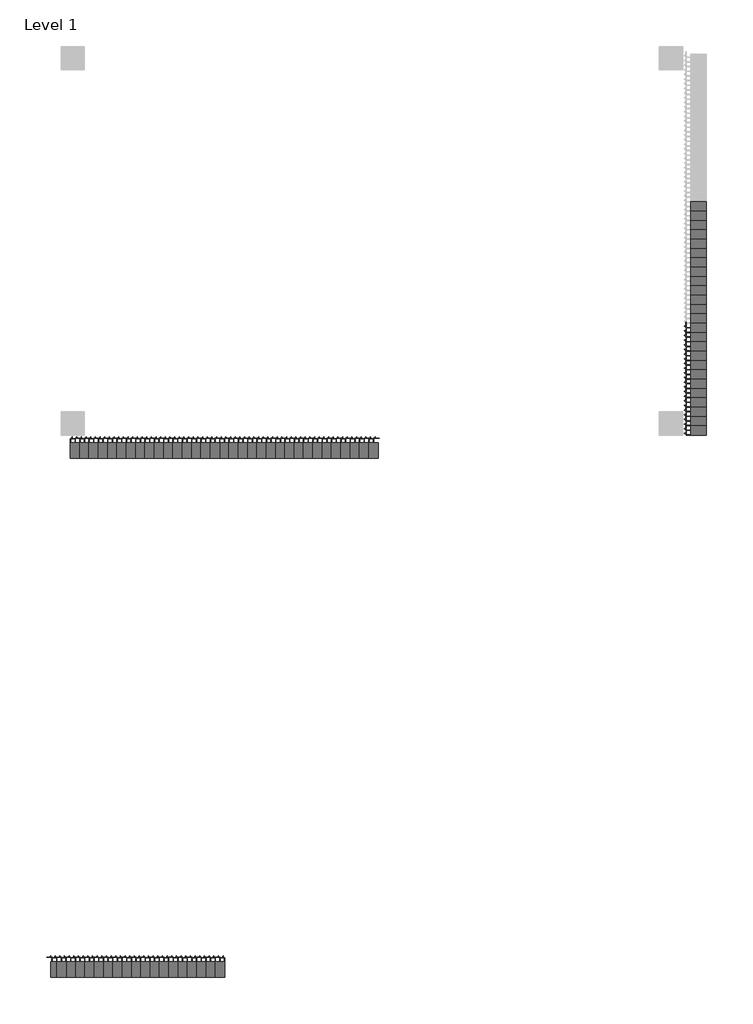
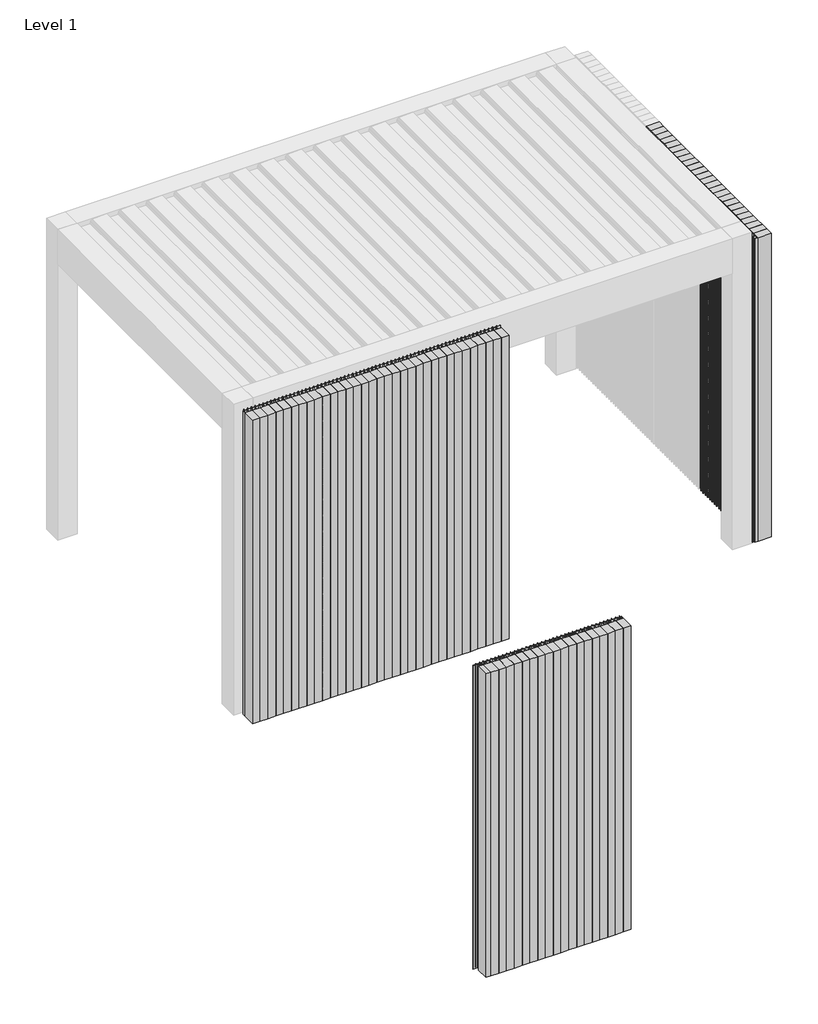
# One storey, part 1 of 80: 77 plates, 64 members.
"""IFC4 building model written with IfcOpenShell, lengths in millimetres."""

from ifc_helpers import new_model, si_unit, origin, place, context, project, spatial, transform, mapped, element, save
from components import rectangular_mullion_776733ef, rectangular_mullion_087e8397, rectangular_mullion_6a9919f5, empty_system_panel_empty_5508d8ad, empty_system_panel_empty_aff67664, empty_system_panel_empty_a3f81492, empty_system_panel_empty_c465eea2

model = new_model("IFC4")

# Units and contexts
model_context = context("Model", 3, world=origin())
ifc_project = project(units=[si_unit("LENGTHUNIT", "METRE", prefix="MILLI")], contexts=[model_context])

# Site, building, storey
site = spatial("IfcSite", under=ifc_project)
building = spatial("IfcBuilding", under=site)
storey = spatial("IfcBuildingStorey", under=building, Name="Level 1", Elevation=0.0)

# Members
placement = place(None, origin())
rectangular_mullion_shape = rectangular_mullion_776733ef(model_context)
element("IfcMember", 1, ObjectType="Rectangular Mullion : Renson_Linarte_LA-E25-01 Zone B", at=placement, inside=storey, context=model_context, shape_type="MappedRepresentation", body=[
    mapped(rectangular_mullion_shape, transform((384955.5749429, -18477.8406315, 0.0), x_axis=(1.0, 0.0, 0.0), y_axis=(0.0, -1.0, 0.0), z_axis=(0.0, 0.0, -1.0))),
])
element("IfcMember", 2, ObjectType="Rectangular Mullion : Renson_Linarte_LA-E25-01 Zone B", at=placement, inside=storey, context=model_context, shape_type="MappedRepresentation", body=[
    mapped(rectangular_mullion_shape, transform((384895.5749429, -18477.8406315, 0.0), x_axis=(1.0, 0.0, 0.0), y_axis=(0.0, -1.0, 0.0), z_axis=(0.0, 0.0, -1.0))),
])
element("IfcMember", 3, ObjectType="Rectangular Mullion : Renson_Linarte_LA-E25-01 Zone B", at=placement, inside=storey, context=model_context, shape_type="MappedRepresentation", body=[
    mapped(rectangular_mullion_shape, transform((384835.5749429, -18477.8406315, 0.0), x_axis=(1.0, 0.0, 0.0), y_axis=(0.0, -1.0, 0.0), z_axis=(0.0, 0.0, -1.0))),
])
element("IfcMember", 4, ObjectType="Rectangular Mullion : Renson_Linarte_LA-E25-01 Zone B", at=placement, inside=storey, context=model_context, shape_type="MappedRepresentation", body=[
    mapped(rectangular_mullion_shape, transform((384775.5749429, -18477.8406315, 0.0), x_axis=(1.0, 0.0, 0.0), y_axis=(0.0, -1.0, 0.0), z_axis=(0.0, 0.0, -1.0))),
])
element("IfcMember", 5, ObjectType="Rectangular Mullion : Renson_Linarte_LA-E25-01 Zone B", at=placement, inside=storey, context=model_context, shape_type="MappedRepresentation", body=[
    mapped(rectangular_mullion_shape, transform((384715.5749429, -18477.8406315, 0.0), x_axis=(1.0, 0.0, 0.0), y_axis=(0.0, -1.0, 0.0), z_axis=(0.0, 0.0, -1.0))),
])
element("IfcMember", 6, ObjectType="Rectangular Mullion : Renson_Linarte_LA-E25-01 Zone B", at=placement, inside=storey, context=model_context, shape_type="MappedRepresentation", body=[
    mapped(rectangular_mullion_shape, transform((384655.5749429, -18477.8406315, 0.0), x_axis=(1.0, 0.0, 0.0), y_axis=(0.0, -1.0, 0.0), z_axis=(0.0, 0.0, -1.0))),
])
element("IfcMember", 7, ObjectType="Rectangular Mullion : Renson_Linarte_LA-E25-01 Zone B", at=placement, inside=storey, context=model_context, shape_type="MappedRepresentation", body=[
    mapped(rectangular_mullion_shape, transform((384595.5749429, -18477.8406315, 0.0), x_axis=(1.0, 0.0, 0.0), y_axis=(0.0, -1.0, 0.0), z_axis=(0.0, 0.0, -1.0))),
])
element("IfcMember", 8, ObjectType="Rectangular Mullion : Renson_Linarte_LA-E25-01 Zone B", at=placement, inside=storey, context=model_context, shape_type="MappedRepresentation", body=[
    mapped(rectangular_mullion_shape, transform((384535.5749429, -18477.8406315, 0.0), x_axis=(1.0, 0.0, 0.0), y_axis=(0.0, -1.0, 0.0), z_axis=(0.0, 0.0, -1.0))),
])
element("IfcMember", 9, ObjectType="Rectangular Mullion : Renson_Linarte_LA-E25-01 Zone B", at=placement, inside=storey, context=model_context, shape_type="MappedRepresentation", body=[
    mapped(rectangular_mullion_shape, transform((384475.5749429, -18477.8406315, 0.0), x_axis=(1.0, 0.0, 0.0), y_axis=(0.0, -1.0, 0.0), z_axis=(0.0, 0.0, -1.0))),
])
element("IfcMember", 10, ObjectType="Rectangular Mullion : Renson_Linarte_LA-E25-01 Zone B", at=placement, inside=storey, context=model_context, shape_type="MappedRepresentation", body=[
    mapped(rectangular_mullion_shape, transform((384415.5749429, -18477.8406315, 0.0), x_axis=(1.0, 0.0, 0.0), y_axis=(0.0, -1.0, 0.0), z_axis=(0.0, 0.0, -1.0))),
])
element("IfcMember", 11, ObjectType="Rectangular Mullion : Renson_Linarte_LA-E25-01 Zone B", at=placement, inside=storey, context=model_context, shape_type="MappedRepresentation", body=[
    mapped(rectangular_mullion_shape, transform((384355.5749429, -18477.8406315, 0.0), x_axis=(1.0, 0.0, 0.0), y_axis=(0.0, -1.0, 0.0), z_axis=(0.0, 0.0, -1.0))),
])
element("IfcMember", 12, ObjectType="Rectangular Mullion : Renson_Linarte_LA-E25-01 Zone B", at=placement, inside=storey, context=model_context, shape_type="MappedRepresentation", body=[
    mapped(rectangular_mullion_shape, transform((384295.5749429, -18477.8406315, 0.0), x_axis=(1.0, 0.0, 0.0), y_axis=(0.0, -1.0, 0.0), z_axis=(0.0, 0.0, -1.0))),
])
element("IfcMember", 13, ObjectType="Rectangular Mullion : Renson_Linarte_LA-E25-01 Zone B", at=placement, inside=storey, context=model_context, shape_type="MappedRepresentation", body=[
    mapped(rectangular_mullion_shape, transform((384235.5749429, -18477.8406315, 0.0), x_axis=(1.0, 0.0, 0.0), y_axis=(0.0, -1.0, 0.0), z_axis=(0.0, 0.0, -1.0))),
])
element("IfcMember", 14, ObjectType="Rectangular Mullion : Renson_Linarte_LA-E25-01 Zone B", at=placement, inside=storey, context=model_context, shape_type="MappedRepresentation", body=[
    mapped(rectangular_mullion_shape, transform((384175.5749429, -18477.8406315, 0.0), x_axis=(1.0, 0.0, 0.0), y_axis=(0.0, -1.0, 0.0), z_axis=(0.0, 0.0, -1.0))),
])
element("IfcMember", 15, ObjectType="Rectangular Mullion : Renson_Linarte_LA-E25-01 Zone B", at=placement, inside=storey, context=model_context, shape_type="MappedRepresentation", body=[
    mapped(rectangular_mullion_shape, transform((384115.5749429, -18477.8406315, 0.0), x_axis=(1.0, 0.0, 0.0), y_axis=(0.0, -1.0, 0.0), z_axis=(0.0, 0.0, -1.0))),
])
element("IfcMember", 16, ObjectType="Rectangular Mullion : Renson_Linarte_LA-E25-01 Zone B", at=placement, inside=storey, context=model_context, shape_type="MappedRepresentation", body=[
    mapped(rectangular_mullion_shape, transform((384055.5749429, -18477.8406315, 0.0), x_axis=(1.0, 0.0, 0.0), y_axis=(0.0, -1.0, 0.0), z_axis=(0.0, 0.0, -1.0))),
])
element("IfcMember", 17, ObjectType="Rectangular Mullion : Renson_Linarte_LA-E25-01 Zone B", at=placement, inside=storey, context=model_context, shape_type="MappedRepresentation", body=[
    mapped(rectangular_mullion_shape, transform((383995.5749429, -18477.8406315, 0.0), x_axis=(1.0, 0.0, 0.0), y_axis=(0.0, -1.0, 0.0), z_axis=(0.0, 0.0, -1.0))),
])
element("IfcMember", 18, ObjectType="Rectangular Mullion : Renson_Linarte_LA-E25-01 Zone B", at=placement, inside=storey, context=model_context, shape_type="MappedRepresentation", body=[
    mapped(rectangular_mullion_shape, transform((383935.5749429, -18477.8406315, 0.0), x_axis=(1.0, 0.0, 0.0), y_axis=(0.0, -1.0, 0.0), z_axis=(0.0, 0.0, -1.0))),
])
element("IfcMember", 19, ObjectType="Rectangular Mullion : Renson_Linarte_LA-E25-01 Zone B", at=placement, inside=storey, context=model_context, shape_type="MappedRepresentation", body=[
    mapped(rectangular_mullion_shape, transform((383875.5749429, -18477.8406315, 0.0), x_axis=(1.0, 0.0, 0.0), y_axis=(0.0, -1.0, 0.0), z_axis=(0.0, 0.0, -1.0))),
])
element("IfcMember", 20, ObjectType="Rectangular Mullion : Renson_Linarte_LA-E25-01 Zone B", at=placement, inside=storey, context=model_context, shape_type="MappedRepresentation", body=[
    mapped(rectangular_mullion_shape, transform((383815.5749429, -18477.8406315, 0.0), x_axis=(1.0, 0.0, 0.0), y_axis=(0.0, -1.0, 0.0), z_axis=(0.0, 0.0, -1.0))),
])
element("IfcMember", 21, ObjectType="Rectangular Mullion : Renson_Linarte_LA-E25-01 Zone B", at=placement, inside=storey, context=model_context, shape_type="MappedRepresentation", body=[
    mapped(rectangular_mullion_shape, transform((383755.5749429, -18477.8406315, 0.0), x_axis=(1.0, 0.0, 0.0), y_axis=(0.0, -1.0, 0.0), z_axis=(0.0, 0.0, -1.0))),
])
element("IfcMember", 22, ObjectType="Rectangular Mullion : Renson_Linarte_LA-E25-01 Zone B", at=placement, inside=storey, context=model_context, shape_type="MappedRepresentation", body=[
    mapped(rectangular_mullion_shape, transform((383695.5749429, -18477.8406315, 0.0), x_axis=(1.0, 0.0, 0.0), y_axis=(0.0, -1.0, 0.0), z_axis=(0.0, 0.0, -1.0))),
])
element("IfcMember", 23, ObjectType="Rectangular Mullion : Renson_Linarte_LA-E25-01 Zone B", at=placement, inside=storey, context=model_context, shape_type="MappedRepresentation", body=[
    mapped(rectangular_mullion_shape, transform((383635.5749429, -18477.8406315, 0.0), x_axis=(1.0, 0.0, 0.0), y_axis=(0.0, -1.0, 0.0), z_axis=(0.0, 0.0, -1.0))),
])
element("IfcMember", 24, ObjectType="Rectangular Mullion : Renson_Linarte_LA-E25-01 Zone B", at=placement, inside=storey, context=model_context, shape_type="MappedRepresentation", body=[
    mapped(rectangular_mullion_shape, transform((383575.5749429, -18477.8406315, 0.0), x_axis=(1.0, 0.0, 0.0), y_axis=(0.0, -1.0, 0.0), z_axis=(0.0, 0.0, -1.0))),
])
element("IfcMember", 25, ObjectType="Rectangular Mullion : Renson_Linarte_LA-E25-01 Zone B", at=placement, inside=storey, context=model_context, shape_type="MappedRepresentation", body=[
    mapped(rectangular_mullion_shape, transform((383515.5749429, -18477.8406315, 0.0), x_axis=(1.0, 0.0, 0.0), y_axis=(0.0, -1.0, 0.0), z_axis=(0.0, 0.0, -1.0))),
])
element("IfcMember", 26, ObjectType="Rectangular Mullion : Renson_Linarte_LA-E25-01 Zone B", at=placement, inside=storey, context=model_context, shape_type="MappedRepresentation", body=[
    mapped(rectangular_mullion_shape, transform((383455.5749429, -18477.8406315, 0.0), x_axis=(1.0, 0.0, 0.0), y_axis=(0.0, -1.0, 0.0), z_axis=(0.0, 0.0, -1.0))),
])
element("IfcMember", 27, ObjectType="Rectangular Mullion : Renson_Linarte_LA-E25-01 Zone B", at=placement, inside=storey, context=model_context, shape_type="MappedRepresentation", body=[
    mapped(rectangular_mullion_shape, transform((383395.5749429, -18477.8406315, 0.0), x_axis=(1.0, 0.0, 0.0), y_axis=(0.0, -1.0, 0.0), z_axis=(0.0, 0.0, -1.0))),
])
element("IfcMember", 28, ObjectType="Rectangular Mullion : Renson_Linarte_LA-E25-01 Zone B", at=placement, inside=storey, context=model_context, shape_type="MappedRepresentation", body=[
    mapped(rectangular_mullion_shape, transform((383335.5749429, -18477.8406315, 0.0), x_axis=(1.0, 0.0, 0.0), y_axis=(0.0, -1.0, 0.0), z_axis=(0.0, 0.0, -1.0))),
])
element("IfcMember", 29, ObjectType="Rectangular Mullion : Renson_Linarte_LA-E25-01 Zone B", at=placement, inside=storey, context=model_context, shape_type="MappedRepresentation", body=[
    mapped(rectangular_mullion_shape, transform((383275.5749429, -18477.8406315, 0.0), x_axis=(1.0, 0.0, 0.0), y_axis=(0.0, -1.0, 0.0), z_axis=(0.0, 0.0, -1.0))),
])
element("IfcMember", 30, ObjectType="Rectangular Mullion : Renson_Linarte_LA-E25-01 Zone B", at=placement, inside=storey, context=model_context, shape_type="MappedRepresentation", body=[
    mapped(rectangular_mullion_shape, transform((383215.5749429, -18477.8406315, 0.0), x_axis=(1.0, 0.0, 0.0), y_axis=(0.0, -1.0, 0.0), z_axis=(0.0, 0.0, -1.0))),
])
element("IfcMember", 31, ObjectType="Rectangular Mullion : Renson_Linarte_LA-E25-01 Zone B", at=placement, inside=storey, context=model_context, shape_type="MappedRepresentation", body=[
    mapped(rectangular_mullion_shape, transform((383155.5749429, -18477.8406315, 0.0), x_axis=(1.0, 0.0, 0.0), y_axis=(0.0, -1.0, 0.0), z_axis=(0.0, 0.0, -1.0))),
])
element("IfcMember", 32, ObjectType="Rectangular Mullion : Renson_Linarte_LA-E25-01 Zone B", at=placement, inside=storey, context=model_context, shape_type="MappedRepresentation", body=[
    mapped(rectangular_mullion_shape, transform((383095.5749429, -18477.8406315, 0.0), x_axis=(1.0, 0.0, 0.0), y_axis=(0.0, -1.0, 0.0), z_axis=(0.0, 0.0, -1.0))),
])
element("IfcMember", 33, ObjectType="Rectangular Mullion : Renson_Linarte_LA-E25-01 Zone B", at=placement, inside=storey, context=model_context, shape_type="MappedRepresentation", body=[
    mapped(rectangular_mullion_shape, transform((386975.5749426, -18357.8406312, 0.0), x_axis=(0.0, 1.0, 0.0), y_axis=(1.0, 0.0, 0.0), z_axis=(0.0, 0.0, -1.0))),
])
element("IfcMember", 34, ObjectType="Rectangular Mullion : Renson_Linarte_LA-E25-01 Zone B", at=placement, inside=storey, context=model_context, shape_type="MappedRepresentation", body=[
    mapped(rectangular_mullion_shape, transform((386975.5749426, -18297.8406312, 0.0), x_axis=(0.0, 1.0, 0.0), y_axis=(1.0, 0.0, 0.0), z_axis=(0.0, 0.0, -1.0))),
])
element("IfcMember", 35, ObjectType="Rectangular Mullion : Renson_Linarte_LA-E25-01 Zone B", at=placement, inside=storey, context=model_context, shape_type="MappedRepresentation", body=[
    mapped(rectangular_mullion_shape, transform((386975.5749426, -18237.8406312, 0.0), x_axis=(0.0, 1.0, 0.0), y_axis=(1.0, 0.0, 0.0), z_axis=(0.0, 0.0, -1.0))),
])
element("IfcMember", 36, ObjectType="Rectangular Mullion : Renson_Linarte_LA-E25-01 Zone B", at=placement, inside=storey, context=model_context, shape_type="MappedRepresentation", body=[
    mapped(rectangular_mullion_shape, transform((386975.5749426, -18177.8406312, 0.0), x_axis=(0.0, 1.0, 0.0), y_axis=(1.0, 0.0, 0.0), z_axis=(0.0, 0.0, -1.0))),
])
element("IfcMember", 37, ObjectType="Rectangular Mullion : Renson_Linarte_LA-E25-01 Zone B", at=placement, inside=storey, context=model_context, shape_type="MappedRepresentation", body=[
    mapped(rectangular_mullion_shape, transform((386975.5749426, -18117.8406312, 0.0), x_axis=(0.0, 1.0, 0.0), y_axis=(1.0, 0.0, 0.0), z_axis=(0.0, 0.0, -1.0))),
])
element("IfcMember", 38, ObjectType="Rectangular Mullion : Renson_Linarte_LA-E25-01 Zone B", at=placement, inside=storey, context=model_context, shape_type="MappedRepresentation", body=[
    mapped(rectangular_mullion_shape, transform((386975.5749426, -18057.8406312, 0.0), x_axis=(0.0, 1.0, 0.0), y_axis=(1.0, 0.0, 0.0), z_axis=(0.0, 0.0, -1.0))),
])
element("IfcMember", 39, ObjectType="Rectangular Mullion : Renson_Linarte_LA-E25-01 Zone B", at=placement, inside=storey, context=model_context, shape_type="MappedRepresentation", body=[
    mapped(rectangular_mullion_shape, transform((386975.5749426, -17997.8406312, 0.0), x_axis=(0.0, 1.0, 0.0), y_axis=(1.0, 0.0, 0.0), z_axis=(0.0, 0.0, -1.0))),
])
element("IfcMember", 40, ObjectType="Rectangular Mullion : Renson_Linarte_LA-E25-01 Zone B", at=placement, inside=storey, context=model_context, shape_type="MappedRepresentation", body=[
    mapped(rectangular_mullion_shape, transform((386975.5749426, -17937.8406312, 0.0), x_axis=(0.0, 1.0, 0.0), y_axis=(1.0, 0.0, 0.0), z_axis=(0.0, 0.0, -1.0))),
])
element("IfcMember", 41, ObjectType="Rectangular Mullion : Renson_Linarte_LA-E25-01 Zone B", at=placement, inside=storey, context=model_context, shape_type="MappedRepresentation", body=[
    mapped(rectangular_mullion_shape, transform((386975.5749426, -17877.8406312, 0.0), x_axis=(0.0, 1.0, 0.0), y_axis=(1.0, 0.0, 0.0), z_axis=(0.0, 0.0, -1.0))),
])
element("IfcMember", 42, ObjectType="Rectangular Mullion : Renson_Linarte_LA-E25-01 Zone B", at=placement, inside=storey, context=model_context, shape_type="MappedRepresentation", body=[
    mapped(rectangular_mullion_shape, transform((386975.5749426, -17817.8406312, 0.0), x_axis=(0.0, 1.0, 0.0), y_axis=(1.0, 0.0, 0.0), z_axis=(0.0, 0.0, -1.0))),
])
element("IfcMember", 43, ObjectType="Rectangular Mullion : Renson_Linarte_LA-E25-01 Zone B", at=placement, inside=storey, context=model_context, shape_type="MappedRepresentation", body=[
    mapped(rectangular_mullion_shape, transform((383035.5749429, -18477.8406315, 0.0), x_axis=(1.0, 0.0, 0.0), y_axis=(0.0, -1.0, 0.0), z_axis=(0.0, 0.0, -1.0))),
])
element("IfcMember", 44, ObjectType="Rectangular Mullion : Renson_Linarte_LA-E25-01 Zone B", at=placement, inside=storey, context=model_context, shape_type="MappedRepresentation", body=[
    mapped(rectangular_mullion_shape, transform((386975.5749426, -18417.8406312, 0.0), x_axis=(0.0, 1.0, 0.0), y_axis=(1.0, 0.0, 0.0), z_axis=(0.0, 0.0, -1.0))),
])
rectangular_mullion_2_shape = rectangular_mullion_087e8397(model_context)
element("IfcMember", 45, ObjectType="Rectangular Mullion : Renson_Linarte_LA-E25-01 Zone B", at=placement, inside=storey, context=model_context, shape_type="MappedRepresentation", body=[
    mapped(rectangular_mullion_2_shape, transform((386975.5749426, -18477.8406315, 2475.0), x_axis=(0.0, -1.0, 0.0), y_axis=(1.0, 0.0, 0.0), z_axis=(0.0, 0.0, 1.0))),
])
rectangular_mullion_3_shape = rectangular_mullion_6a9919f5(model_context)
element("IfcMember", 46, ObjectType="Rectangular Mullion : Renson_Linarte_LA-E25-01 Zone B", at=placement, inside=storey, context=model_context, shape_type="MappedRepresentation", body=[
    mapped(rectangular_mullion_3_shape, transform((384029.0900204, -21816.7045876, 0.0), x_axis=(-1.0, 0.0, 0.0), y_axis=(0.0, 1.0, 0.0), z_axis=(0.0, 0.0, -1.0))),
])
element("IfcMember", 47, ObjectType="Rectangular Mullion : Renson_Linarte_LA-E25-01 Zone B", at=placement, inside=storey, context=model_context, shape_type="MappedRepresentation", body=[
    mapped(rectangular_mullion_3_shape, transform((383969.0900204, -21816.7045876, 0.0), x_axis=(-1.0, 0.0, 0.0), y_axis=(0.0, 1.0, 0.0), z_axis=(0.0, 0.0, -1.0))),
])
element("IfcMember", 48, ObjectType="Rectangular Mullion : Renson_Linarte_LA-E25-01 Zone B", at=placement, inside=storey, context=model_context, shape_type="MappedRepresentation", body=[
    mapped(rectangular_mullion_3_shape, transform((383909.0900204, -21816.7045876, 0.0), x_axis=(-1.0, 0.0, 0.0), y_axis=(0.0, 1.0, 0.0), z_axis=(0.0, 0.0, -1.0))),
])
element("IfcMember", 49, ObjectType="Rectangular Mullion : Renson_Linarte_LA-E25-01 Zone B", at=placement, inside=storey, context=model_context, shape_type="MappedRepresentation", body=[
    mapped(rectangular_mullion_3_shape, transform((383849.0900204, -21816.7045876, 0.0), x_axis=(-1.0, 0.0, 0.0), y_axis=(0.0, 1.0, 0.0), z_axis=(0.0, 0.0, -1.0))),
])
element("IfcMember", 50, ObjectType="Rectangular Mullion : Renson_Linarte_LA-E25-01 Zone B", at=placement, inside=storey, context=model_context, shape_type="MappedRepresentation", body=[
    mapped(rectangular_mullion_3_shape, transform((383789.0900204, -21816.7045876, 0.0), x_axis=(-1.0, 0.0, 0.0), y_axis=(0.0, 1.0, 0.0), z_axis=(0.0, 0.0, -1.0))),
])
element("IfcMember", 51, ObjectType="Rectangular Mullion : Renson_Linarte_LA-E25-01 Zone B", at=placement, inside=storey, context=model_context, shape_type="MappedRepresentation", body=[
    mapped(rectangular_mullion_3_shape, transform((383729.0900204, -21816.7045876, 0.0), x_axis=(-1.0, 0.0, 0.0), y_axis=(0.0, 1.0, 0.0), z_axis=(0.0, 0.0, -1.0))),
])
element("IfcMember", 52, ObjectType="Rectangular Mullion : Renson_Linarte_LA-E25-01 Zone B", at=placement, inside=storey, context=model_context, shape_type="MappedRepresentation", body=[
    mapped(rectangular_mullion_3_shape, transform((383669.0900204, -21816.7045876, 0.0), x_axis=(-1.0, 0.0, 0.0), y_axis=(0.0, 1.0, 0.0), z_axis=(0.0, 0.0, -1.0))),
])
element("IfcMember", 53, ObjectType="Rectangular Mullion : Renson_Linarte_LA-E25-01 Zone B", at=placement, inside=storey, context=model_context, shape_type="MappedRepresentation", body=[
    mapped(rectangular_mullion_3_shape, transform((383609.0900204, -21816.7045876, 0.0), x_axis=(-1.0, 0.0, 0.0), y_axis=(0.0, 1.0, 0.0), z_axis=(0.0, 0.0, -1.0))),
])
element("IfcMember", 54, ObjectType="Rectangular Mullion : Renson_Linarte_LA-E25-01 Zone B", at=placement, inside=storey, context=model_context, shape_type="MappedRepresentation", body=[
    mapped(rectangular_mullion_3_shape, transform((383549.0900204, -21816.7045876, 0.0), x_axis=(-1.0, 0.0, 0.0), y_axis=(0.0, 1.0, 0.0), z_axis=(0.0, 0.0, -1.0))),
])
element("IfcMember", 55, ObjectType="Rectangular Mullion : Renson_Linarte_LA-E25-01 Zone B", at=placement, inside=storey, context=model_context, shape_type="MappedRepresentation", body=[
    mapped(rectangular_mullion_3_shape, transform((383489.0900204, -21816.7045876, 0.0), x_axis=(-1.0, 0.0, 0.0), y_axis=(0.0, 1.0, 0.0), z_axis=(0.0, 0.0, -1.0))),
])
element("IfcMember", 56, ObjectType="Rectangular Mullion : Renson_Linarte_LA-E25-01 Zone B", at=placement, inside=storey, context=model_context, shape_type="MappedRepresentation", body=[
    mapped(rectangular_mullion_3_shape, transform((383429.0900204, -21816.7045876, 0.0), x_axis=(-1.0, 0.0, 0.0), y_axis=(0.0, 1.0, 0.0), z_axis=(0.0, 0.0, -1.0))),
])
element("IfcMember", 57, ObjectType="Rectangular Mullion : Renson_Linarte_LA-E25-01 Zone B", at=placement, inside=storey, context=model_context, shape_type="MappedRepresentation", body=[
    mapped(rectangular_mullion_3_shape, transform((383369.0900204, -21816.7045876, 0.0), x_axis=(-1.0, 0.0, 0.0), y_axis=(0.0, 1.0, 0.0), z_axis=(0.0, 0.0, -1.0))),
])
element("IfcMember", 58, ObjectType="Rectangular Mullion : Renson_Linarte_LA-E25-01 Zone B", at=placement, inside=storey, context=model_context, shape_type="MappedRepresentation", body=[
    mapped(rectangular_mullion_3_shape, transform((383309.0900204, -21816.7045876, 0.0), x_axis=(-1.0, 0.0, 0.0), y_axis=(0.0, 1.0, 0.0), z_axis=(0.0, 0.0, -1.0))),
])
element("IfcMember", 59, ObjectType="Rectangular Mullion : Renson_Linarte_LA-E25-01 Zone B", at=placement, inside=storey, context=model_context, shape_type="MappedRepresentation", body=[
    mapped(rectangular_mullion_3_shape, transform((383249.0900204, -21816.7045876, 0.0), x_axis=(-1.0, 0.0, 0.0), y_axis=(0.0, 1.0, 0.0), z_axis=(0.0, 0.0, -1.0))),
])
element("IfcMember", 60, ObjectType="Rectangular Mullion : Renson_Linarte_LA-E25-01 Zone B", at=placement, inside=storey, context=model_context, shape_type="MappedRepresentation", body=[
    mapped(rectangular_mullion_3_shape, transform((383189.0900204, -21816.7045876, 0.0), x_axis=(-1.0, 0.0, 0.0), y_axis=(0.0, 1.0, 0.0), z_axis=(0.0, 0.0, -1.0))),
])
element("IfcMember", 61, ObjectType="Rectangular Mullion : Renson_Linarte_LA-E25-01 Zone B", at=placement, inside=storey, context=model_context, shape_type="MappedRepresentation", body=[
    mapped(rectangular_mullion_3_shape, transform((383129.0900204, -21816.7045876, 0.0), x_axis=(-1.0, 0.0, 0.0), y_axis=(0.0, 1.0, 0.0), z_axis=(0.0, 0.0, -1.0))),
])
element("IfcMember", 62, ObjectType="Rectangular Mullion : Renson_Linarte_LA-E25-01 Zone B", at=placement, inside=storey, context=model_context, shape_type="MappedRepresentation", body=[
    mapped(rectangular_mullion_3_shape, transform((383069.0900204, -21816.7045876, 0.0), x_axis=(-1.0, 0.0, 0.0), y_axis=(0.0, 1.0, 0.0), z_axis=(0.0, 0.0, -1.0))),
])
element("IfcMember", 63, ObjectType="Rectangular Mullion : Renson_Linarte_LA-E25-01 Zone B", at=placement, inside=storey, context=model_context, shape_type="MappedRepresentation", body=[
    mapped(rectangular_mullion_3_shape, transform((383009.0900204, -21816.7045876, 0.0), x_axis=(-1.0, 0.0, 0.0), y_axis=(0.0, 1.0, 0.0), z_axis=(0.0, 0.0, -1.0))),
])
element("IfcMember", 64, ObjectType="Rectangular Mullion : Renson_Linarte_LA-E25-01 Zone B", at=placement, inside=storey, context=model_context, shape_type="MappedRepresentation", body=[
    mapped(rectangular_mullion_3_shape, transform((382949.0900204, -21816.7045876, 0.0), x_axis=(-1.0, 0.0, 0.0), y_axis=(0.0, 1.0, 0.0), z_axis=(0.0, 0.0, -1.0))),
])

# Plates
empty_system_panel_empty_shape = empty_system_panel_empty_5508d8ad(model_context)
element("IfcPlate", 65, ObjectType="Empty System Panel : Empty", at=placement, inside=storey, context=model_context, shape_type="MappedRepresentation", body=[
    mapped(empty_system_panel_empty_shape, transform((384985.5749429, -18477.8406315, 0.0), x_axis=(1.0, 0.0, 0.0), y_axis=(0.0, 1.0, 0.0), z_axis=(0.0, 0.0, 1.0))),
])
element("IfcPlate", 66, ObjectType="Empty System Panel : Empty", at=placement, inside=storey, context=model_context, shape_type="MappedRepresentation", body=[
    mapped(empty_system_panel_empty_shape, transform((384925.5749429, -18477.8406315, 0.0), x_axis=(1.0, 0.0, 0.0), y_axis=(0.0, 1.0, 0.0), z_axis=(0.0, 0.0, 1.0))),
])
element("IfcPlate", 67, ObjectType="Empty System Panel : Empty", at=placement, inside=storey, context=model_context, shape_type="MappedRepresentation", body=[
    mapped(empty_system_panel_empty_shape, transform((384865.5749429, -18477.8406315, 0.0), x_axis=(1.0, 0.0, 0.0), y_axis=(0.0, 1.0, 0.0), z_axis=(0.0, 0.0, 1.0))),
])
element("IfcPlate", 68, ObjectType="Empty System Panel : Empty", at=placement, inside=storey, context=model_context, shape_type="MappedRepresentation", body=[
    mapped(empty_system_panel_empty_shape, transform((384805.5749429, -18477.8406315, 0.0), x_axis=(1.0, 0.0, 0.0), y_axis=(0.0, 1.0, 0.0), z_axis=(0.0, 0.0, 1.0))),
])
element("IfcPlate", 69, ObjectType="Empty System Panel : Empty", at=placement, inside=storey, context=model_context, shape_type="MappedRepresentation", body=[
    mapped(empty_system_panel_empty_shape, transform((384745.5749429, -18477.8406315, 0.0), x_axis=(1.0, 0.0, 0.0), y_axis=(0.0, 1.0, 0.0), z_axis=(0.0, 0.0, 1.0))),
])
element("IfcPlate", 70, ObjectType="Empty System Panel : Empty", at=placement, inside=storey, context=model_context, shape_type="MappedRepresentation", body=[
    mapped(empty_system_panel_empty_shape, transform((384685.5749429, -18477.8406315, 0.0), x_axis=(1.0, 0.0, 0.0), y_axis=(0.0, 1.0, 0.0), z_axis=(0.0, 0.0, 1.0))),
])
element("IfcPlate", 71, ObjectType="Empty System Panel : Empty", at=placement, inside=storey, context=model_context, shape_type="MappedRepresentation", body=[
    mapped(empty_system_panel_empty_shape, transform((384625.5749429, -18477.8406315, 0.0), x_axis=(1.0, 0.0, 0.0), y_axis=(0.0, 1.0, 0.0), z_axis=(0.0, 0.0, 1.0))),
])
element("IfcPlate", 72, ObjectType="Empty System Panel : Empty", at=placement, inside=storey, context=model_context, shape_type="MappedRepresentation", body=[
    mapped(empty_system_panel_empty_shape, transform((384565.5749429, -18477.8406315, 0.0), x_axis=(1.0, 0.0, 0.0), y_axis=(0.0, 1.0, 0.0), z_axis=(0.0, 0.0, 1.0))),
])
element("IfcPlate", 73, ObjectType="Empty System Panel : Empty", at=placement, inside=storey, context=model_context, shape_type="MappedRepresentation", body=[
    mapped(empty_system_panel_empty_shape, transform((384505.5749429, -18477.8406315, 0.0), x_axis=(1.0, 0.0, 0.0), y_axis=(0.0, 1.0, 0.0), z_axis=(0.0, 0.0, 1.0))),
])
element("IfcPlate", 74, ObjectType="Empty System Panel : Empty", at=placement, inside=storey, context=model_context, shape_type="MappedRepresentation", body=[
    mapped(empty_system_panel_empty_shape, transform((384445.5749429, -18477.8406315, 0.0), x_axis=(1.0, 0.0, 0.0), y_axis=(0.0, 1.0, 0.0), z_axis=(0.0, 0.0, 1.0))),
])
element("IfcPlate", 75, ObjectType="Empty System Panel : Empty", at=placement, inside=storey, context=model_context, shape_type="MappedRepresentation", body=[
    mapped(empty_system_panel_empty_shape, transform((384385.5749429, -18477.8406315, 0.0), x_axis=(1.0, 0.0, 0.0), y_axis=(0.0, 1.0, 0.0), z_axis=(0.0, 0.0, 1.0))),
])
element("IfcPlate", 76, ObjectType="Empty System Panel : Empty", at=placement, inside=storey, context=model_context, shape_type="MappedRepresentation", body=[
    mapped(empty_system_panel_empty_shape, transform((384325.5749429, -18477.8406315, 0.0), x_axis=(1.0, 0.0, 0.0), y_axis=(0.0, 1.0, 0.0), z_axis=(0.0, 0.0, 1.0))),
])
element("IfcPlate", 77, ObjectType="Empty System Panel : Empty", at=placement, inside=storey, context=model_context, shape_type="MappedRepresentation", body=[
    mapped(empty_system_panel_empty_shape, transform((384265.5749429, -18477.8406315, 0.0), x_axis=(1.0, 0.0, 0.0), y_axis=(0.0, 1.0, 0.0), z_axis=(0.0, 0.0, 1.0))),
])
element("IfcPlate", 78, ObjectType="Empty System Panel : Empty", at=placement, inside=storey, context=model_context, shape_type="MappedRepresentation", body=[
    mapped(empty_system_panel_empty_shape, transform((384205.5749429, -18477.8406315, 0.0), x_axis=(1.0, 0.0, 0.0), y_axis=(0.0, 1.0, 0.0), z_axis=(0.0, 0.0, 1.0))),
])
element("IfcPlate", 79, ObjectType="Empty System Panel : Empty", at=placement, inside=storey, context=model_context, shape_type="MappedRepresentation", body=[
    mapped(empty_system_panel_empty_shape, transform((384145.5749429, -18477.8406315, 0.0), x_axis=(1.0, 0.0, 0.0), y_axis=(0.0, 1.0, 0.0), z_axis=(0.0, 0.0, 1.0))),
])
element("IfcPlate", 80, ObjectType="Empty System Panel : Empty", at=placement, inside=storey, context=model_context, shape_type="MappedRepresentation", body=[
    mapped(empty_system_panel_empty_shape, transform((384085.5749429, -18477.8406315, 0.0), x_axis=(1.0, 0.0, 0.0), y_axis=(0.0, 1.0, 0.0), z_axis=(0.0, 0.0, 1.0))),
])
element("IfcPlate", 81, ObjectType="Empty System Panel : Empty", at=placement, inside=storey, context=model_context, shape_type="MappedRepresentation", body=[
    mapped(empty_system_panel_empty_shape, transform((384025.5749429, -18477.8406315, 0.0), x_axis=(1.0, 0.0, 0.0), y_axis=(0.0, 1.0, 0.0), z_axis=(0.0, 0.0, 1.0))),
])
element("IfcPlate", 82, ObjectType="Empty System Panel : Empty", at=placement, inside=storey, context=model_context, shape_type="MappedRepresentation", body=[
    mapped(empty_system_panel_empty_shape, transform((383965.5749429, -18477.8406315, 0.0), x_axis=(1.0, 0.0, 0.0), y_axis=(0.0, 1.0, 0.0), z_axis=(0.0, 0.0, 1.0))),
])
element("IfcPlate", 83, ObjectType="Empty System Panel : Empty", at=placement, inside=storey, context=model_context, shape_type="MappedRepresentation", body=[
    mapped(empty_system_panel_empty_shape, transform((383905.5749429, -18477.8406315, 0.0), x_axis=(1.0, 0.0, 0.0), y_axis=(0.0, 1.0, 0.0), z_axis=(0.0, 0.0, 1.0))),
])
element("IfcPlate", 84, ObjectType="Empty System Panel : Empty", at=placement, inside=storey, context=model_context, shape_type="MappedRepresentation", body=[
    mapped(empty_system_panel_empty_shape, transform((383845.5749429, -18477.8406315, 0.0), x_axis=(1.0, 0.0, 0.0), y_axis=(0.0, 1.0, 0.0), z_axis=(0.0, 0.0, 1.0))),
])
element("IfcPlate", 85, ObjectType="Empty System Panel : Empty", at=placement, inside=storey, context=model_context, shape_type="MappedRepresentation", body=[
    mapped(empty_system_panel_empty_shape, transform((383785.5749429, -18477.8406315, 0.0), x_axis=(1.0, 0.0, 0.0), y_axis=(0.0, 1.0, 0.0), z_axis=(0.0, 0.0, 1.0))),
])
element("IfcPlate", 86, ObjectType="Empty System Panel : Empty", at=placement, inside=storey, context=model_context, shape_type="MappedRepresentation", body=[
    mapped(empty_system_panel_empty_shape, transform((383725.5749429, -18477.8406315, 0.0), x_axis=(1.0, 0.0, 0.0), y_axis=(0.0, 1.0, 0.0), z_axis=(0.0, 0.0, 1.0))),
])
element("IfcPlate", 87, ObjectType="Empty System Panel : Empty", at=placement, inside=storey, context=model_context, shape_type="MappedRepresentation", body=[
    mapped(empty_system_panel_empty_shape, transform((383665.5749429, -18477.8406315, 0.0), x_axis=(1.0, 0.0, 0.0), y_axis=(0.0, 1.0, 0.0), z_axis=(0.0, 0.0, 1.0))),
])
element("IfcPlate", 88, ObjectType="Empty System Panel : Empty", at=placement, inside=storey, context=model_context, shape_type="MappedRepresentation", body=[
    mapped(empty_system_panel_empty_shape, transform((383605.5749429, -18477.8406315, 0.0), x_axis=(1.0, 0.0, 0.0), y_axis=(0.0, 1.0, 0.0), z_axis=(0.0, 0.0, 1.0))),
])
element("IfcPlate", 89, ObjectType="Empty System Panel : Empty", at=placement, inside=storey, context=model_context, shape_type="MappedRepresentation", body=[
    mapped(empty_system_panel_empty_shape, transform((383545.5749429, -18477.8406315, 0.0), x_axis=(1.0, 0.0, 0.0), y_axis=(0.0, 1.0, 0.0), z_axis=(0.0, 0.0, 1.0))),
])
element("IfcPlate", 90, ObjectType="Empty System Panel : Empty", at=placement, inside=storey, context=model_context, shape_type="MappedRepresentation", body=[
    mapped(empty_system_panel_empty_shape, transform((383485.5749429, -18477.8406315, 0.0), x_axis=(1.0, 0.0, 0.0), y_axis=(0.0, 1.0, 0.0), z_axis=(0.0, 0.0, 1.0))),
])
element("IfcPlate", 91, ObjectType="Empty System Panel : Empty", at=placement, inside=storey, context=model_context, shape_type="MappedRepresentation", body=[
    mapped(empty_system_panel_empty_shape, transform((383425.5749429, -18477.8406315, 0.0), x_axis=(1.0, 0.0, 0.0), y_axis=(0.0, 1.0, 0.0), z_axis=(0.0, 0.0, 1.0))),
])
element("IfcPlate", 92, ObjectType="Empty System Panel : Empty", at=placement, inside=storey, context=model_context, shape_type="MappedRepresentation", body=[
    mapped(empty_system_panel_empty_shape, transform((383365.5749429, -18477.8406315, 0.0), x_axis=(1.0, 0.0, 0.0), y_axis=(0.0, 1.0, 0.0), z_axis=(0.0, 0.0, 1.0))),
])
element("IfcPlate", 93, ObjectType="Empty System Panel : Empty", at=placement, inside=storey, context=model_context, shape_type="MappedRepresentation", body=[
    mapped(empty_system_panel_empty_shape, transform((383305.5749429, -18477.8406315, 0.0), x_axis=(1.0, 0.0, 0.0), y_axis=(0.0, 1.0, 0.0), z_axis=(0.0, 0.0, 1.0))),
])
element("IfcPlate", 94, ObjectType="Empty System Panel : Empty", at=placement, inside=storey, context=model_context, shape_type="MappedRepresentation", body=[
    mapped(empty_system_panel_empty_shape, transform((383245.5749429, -18477.8406315, 0.0), x_axis=(1.0, 0.0, 0.0), y_axis=(0.0, 1.0, 0.0), z_axis=(0.0, 0.0, 1.0))),
])
element("IfcPlate", 95, ObjectType="Empty System Panel : Empty", at=placement, inside=storey, context=model_context, shape_type="MappedRepresentation", body=[
    mapped(empty_system_panel_empty_shape, transform((383185.5749429, -18477.8406315, 0.0), x_axis=(1.0, 0.0, 0.0), y_axis=(0.0, 1.0, 0.0), z_axis=(0.0, 0.0, 1.0))),
])
element("IfcPlate", 96, ObjectType="Empty System Panel : Empty", at=placement, inside=storey, context=model_context, shape_type="MappedRepresentation", body=[
    mapped(empty_system_panel_empty_shape, transform((383125.5749429, -18477.8406315, 0.0), x_axis=(1.0, 0.0, 0.0), y_axis=(0.0, 1.0, 0.0), z_axis=(0.0, 0.0, 1.0))),
])
element("IfcPlate", 97, ObjectType="Empty System Panel : Empty", at=placement, inside=storey, context=model_context, shape_type="MappedRepresentation", body=[
    mapped(empty_system_panel_empty_shape, transform((386975.5749426, -18327.8406312, 0.0), x_axis=(0.0, 1.0, 0.0), y_axis=(-1.0, 0.0, 0.0), z_axis=(0.0, 0.0, 1.0))),
])
element("IfcPlate", 98, ObjectType="Empty System Panel : Empty", at=placement, inside=storey, context=model_context, shape_type="MappedRepresentation", body=[
    mapped(empty_system_panel_empty_shape, transform((386975.5749426, -18267.8406312, 0.0), x_axis=(0.0, 1.0, 0.0), y_axis=(-1.0, 0.0, 0.0), z_axis=(0.0, 0.0, 1.0))),
])
element("IfcPlate", 99, ObjectType="Empty System Panel : Empty", at=placement, inside=storey, context=model_context, shape_type="MappedRepresentation", body=[
    mapped(empty_system_panel_empty_shape, transform((386975.5749426, -18207.8406312, 0.0), x_axis=(0.0, 1.0, 0.0), y_axis=(-1.0, 0.0, 0.0), z_axis=(0.0, 0.0, 1.0))),
])
element("IfcPlate", 100, ObjectType="Empty System Panel : Empty", at=placement, inside=storey, context=model_context, shape_type="MappedRepresentation", body=[
    mapped(empty_system_panel_empty_shape, transform((386975.5749426, -18147.8406312, 0.0), x_axis=(0.0, 1.0, 0.0), y_axis=(-1.0, 0.0, 0.0), z_axis=(0.0, 0.0, 1.0))),
])
element("IfcPlate", 101, ObjectType="Empty System Panel : Empty", at=placement, inside=storey, context=model_context, shape_type="MappedRepresentation", body=[
    mapped(empty_system_panel_empty_shape, transform((386975.5749426, -18087.8406312, 0.0), x_axis=(0.0, 1.0, 0.0), y_axis=(-1.0, 0.0, 0.0), z_axis=(0.0, 0.0, 1.0))),
])
element("IfcPlate", 102, ObjectType="Empty System Panel : Empty", at=placement, inside=storey, context=model_context, shape_type="MappedRepresentation", body=[
    mapped(empty_system_panel_empty_shape, transform((386975.5749426, -18027.8406312, 0.0), x_axis=(0.0, 1.0, 0.0), y_axis=(-1.0, 0.0, 0.0), z_axis=(0.0, 0.0, 1.0))),
])
element("IfcPlate", 103, ObjectType="Empty System Panel : Empty", at=placement, inside=storey, context=model_context, shape_type="MappedRepresentation", body=[
    mapped(empty_system_panel_empty_shape, transform((386975.5749426, -17967.8406312, 0.0), x_axis=(0.0, 1.0, 0.0), y_axis=(-1.0, 0.0, 0.0), z_axis=(0.0, 0.0, 1.0))),
])
element("IfcPlate", 104, ObjectType="Empty System Panel : Empty", at=placement, inside=storey, context=model_context, shape_type="MappedRepresentation", body=[
    mapped(empty_system_panel_empty_shape, transform((386975.5749426, -17907.8406312, 0.0), x_axis=(0.0, 1.0, 0.0), y_axis=(-1.0, 0.0, 0.0), z_axis=(0.0, 0.0, 1.0))),
])
element("IfcPlate", 105, ObjectType="Empty System Panel : Empty", at=placement, inside=storey, context=model_context, shape_type="MappedRepresentation", body=[
    mapped(empty_system_panel_empty_shape, transform((386975.5749426, -17847.8406312, 0.0), x_axis=(0.0, 1.0, 0.0), y_axis=(-1.0, 0.0, 0.0), z_axis=(0.0, 0.0, 1.0))),
])
element("IfcPlate", 106, ObjectType="Empty System Panel : Empty", at=placement, inside=storey, context=model_context, shape_type="MappedRepresentation", body=[
    mapped(empty_system_panel_empty_shape, transform((386975.5749426, -17787.8406312, 0.0), x_axis=(0.0, 1.0, 0.0), y_axis=(-1.0, 0.0, 0.0), z_axis=(0.0, 0.0, 1.0))),
])
element("IfcPlate", 107, ObjectType="Empty System Panel : Empty", at=placement, inside=storey, context=model_context, shape_type="MappedRepresentation", body=[
    mapped(empty_system_panel_empty_shape, transform((386975.5749426, -17727.8406312, 0.0), x_axis=(0.0, 1.0, 0.0), y_axis=(-1.0, 0.0, 0.0), z_axis=(0.0, 0.0, 1.0))),
])
element("IfcPlate", 108, ObjectType="Empty System Panel : Empty", at=placement, inside=storey, context=model_context, shape_type="MappedRepresentation", body=[
    mapped(empty_system_panel_empty_shape, transform((386975.5749426, -17667.8406312, 0.0), x_axis=(0.0, 1.0, 0.0), y_axis=(-1.0, 0.0, 0.0), z_axis=(0.0, 0.0, 1.0))),
])
element("IfcPlate", 109, ObjectType="Empty System Panel : Empty", at=placement, inside=storey, context=model_context, shape_type="MappedRepresentation", body=[
    mapped(empty_system_panel_empty_shape, transform((386975.5749426, -17607.8406312, 0.0), x_axis=(0.0, 1.0, 0.0), y_axis=(-1.0, 0.0, 0.0), z_axis=(0.0, 0.0, 1.0))),
])
element("IfcPlate", 110, ObjectType="Empty System Panel : Empty", at=placement, inside=storey, context=model_context, shape_type="MappedRepresentation", body=[
    mapped(empty_system_panel_empty_shape, transform((386975.5749426, -17547.8406312, 0.0), x_axis=(0.0, 1.0, 0.0), y_axis=(-1.0, 0.0, 0.0), z_axis=(0.0, 0.0, 1.0))),
])
element("IfcPlate", 111, ObjectType="Empty System Panel : Empty", at=placement, inside=storey, context=model_context, shape_type="MappedRepresentation", body=[
    mapped(empty_system_panel_empty_shape, transform((386975.5749426, -17487.8406312, 0.0), x_axis=(0.0, 1.0, 0.0), y_axis=(-1.0, 0.0, 0.0), z_axis=(0.0, 0.0, 1.0))),
])
element("IfcPlate", 112, ObjectType="Empty System Panel : Empty", at=placement, inside=storey, context=model_context, shape_type="MappedRepresentation", body=[
    mapped(empty_system_panel_empty_shape, transform((386975.5749426, -17427.8406312, 0.0), x_axis=(0.0, 1.0, 0.0), y_axis=(-1.0, 0.0, 0.0), z_axis=(0.0, 0.0, 1.0))),
])
element("IfcPlate", 113, ObjectType="Empty System Panel : Empty", at=placement, inside=storey, context=model_context, shape_type="MappedRepresentation", body=[
    mapped(empty_system_panel_empty_shape, transform((386975.5749426, -17367.8406312, 0.0), x_axis=(0.0, 1.0, 0.0), y_axis=(-1.0, 0.0, 0.0), z_axis=(0.0, 0.0, 1.0))),
])
element("IfcPlate", 114, ObjectType="Empty System Panel : Empty", at=placement, inside=storey, context=model_context, shape_type="MappedRepresentation", body=[
    mapped(empty_system_panel_empty_shape, transform((386975.5749426, -17307.8406312, 0.0), x_axis=(0.0, 1.0, 0.0), y_axis=(-1.0, 0.0, 0.0), z_axis=(0.0, 0.0, 1.0))),
])
element("IfcPlate", 115, ObjectType="Empty System Panel : Empty", at=placement, inside=storey, context=model_context, shape_type="MappedRepresentation", body=[
    mapped(empty_system_panel_empty_shape, transform((386975.5749426, -17247.8406312, 0.0), x_axis=(0.0, 1.0, 0.0), y_axis=(-1.0, 0.0, 0.0), z_axis=(0.0, 0.0, 1.0))),
])
element("IfcPlate", 116, ObjectType="Empty System Panel : Empty", at=placement, inside=storey, context=model_context, shape_type="MappedRepresentation", body=[
    mapped(empty_system_panel_empty_shape, transform((386975.5749426, -17187.8406312, 0.0), x_axis=(0.0, 1.0, 0.0), y_axis=(-1.0, 0.0, 0.0), z_axis=(0.0, 0.0, 1.0))),
])
element("IfcPlate", 117, ObjectType="Empty System Panel : Empty", at=placement, inside=storey, context=model_context, shape_type="MappedRepresentation", body=[
    mapped(empty_system_panel_empty_shape, transform((386975.5749426, -17127.8406312, 0.0), x_axis=(0.0, 1.0, 0.0), y_axis=(-1.0, 0.0, 0.0), z_axis=(0.0, 0.0, 1.0))),
])
element("IfcPlate", 118, ObjectType="Empty System Panel : Empty", at=placement, inside=storey, context=model_context, shape_type="MappedRepresentation", body=[
    mapped(empty_system_panel_empty_shape, transform((386975.5749426, -17067.8406312, 0.0), x_axis=(0.0, 1.0, 0.0), y_axis=(-1.0, 0.0, 0.0), z_axis=(0.0, 0.0, 1.0))),
])
element("IfcPlate", 119, ObjectType="Empty System Panel : Empty", at=placement, inside=storey, context=model_context, shape_type="MappedRepresentation", body=[
    mapped(empty_system_panel_empty_shape, transform((386975.5749426, -17007.8406312, 0.0), x_axis=(0.0, 1.0, 0.0), y_axis=(-1.0, 0.0, 0.0), z_axis=(0.0, 0.0, 1.0))),
])
element("IfcPlate", 120, ObjectType="Empty System Panel : Empty", at=placement, inside=storey, context=model_context, shape_type="MappedRepresentation", body=[
    mapped(empty_system_panel_empty_shape, transform((383065.5749429, -18477.8406315, 0.0), x_axis=(1.0, 0.0, 0.0), y_axis=(0.0, 1.0, 0.0), z_axis=(0.0, 0.0, 1.0))),
])
element("IfcPlate", 121, ObjectType="Empty System Panel : Empty", at=placement, inside=storey, context=model_context, shape_type="MappedRepresentation", body=[
    mapped(empty_system_panel_empty_shape, transform((386975.5749426, -18387.8406312, 0.0), x_axis=(0.0, 1.0, 0.0), y_axis=(-1.0, 0.0, 0.0), z_axis=(0.0, 0.0, 1.0))),
])
empty_system_panel_empty_2_shape = empty_system_panel_empty_aff67664(model_context)
element("IfcPlate", 122, ObjectType="Empty System Panel : Empty", at=placement, inside=storey, context=model_context, shape_type="MappedRepresentation", body=[
    mapped(empty_system_panel_empty_2_shape, transform((386975.5749426, -18447.8406314, 0.0), x_axis=(0.0, 1.0, 0.0), y_axis=(-1.0, 0.0, 0.0), z_axis=(0.0, 0.0, 1.0))),
])
empty_system_panel_empty_3_shape = empty_system_panel_empty_a3f81492(model_context)
element("IfcPlate", 123, ObjectType="Empty System Panel : Empty", at=placement, inside=storey, context=model_context, shape_type="MappedRepresentation", body=[
    mapped(empty_system_panel_empty_3_shape, transform((383999.0900204, -21816.7045876, 0.0), x_axis=(-1.0, 0.0, 0.0), y_axis=(0.0, -1.0, 0.0), z_axis=(0.0, 0.0, 1.0))),
])
element("IfcPlate", 124, ObjectType="Empty System Panel : Empty", at=placement, inside=storey, context=model_context, shape_type="MappedRepresentation", body=[
    mapped(empty_system_panel_empty_3_shape, transform((383939.0900204, -21816.7045876, 0.0), x_axis=(-1.0, 0.0, 0.0), y_axis=(0.0, -1.0, 0.0), z_axis=(0.0, 0.0, 1.0))),
])
element("IfcPlate", 125, ObjectType="Empty System Panel : Empty", at=placement, inside=storey, context=model_context, shape_type="MappedRepresentation", body=[
    mapped(empty_system_panel_empty_3_shape, transform((383879.0900204, -21816.7045876, 0.0), x_axis=(-1.0, 0.0, 0.0), y_axis=(0.0, -1.0, 0.0), z_axis=(0.0, 0.0, 1.0))),
])
element("IfcPlate", 126, ObjectType="Empty System Panel : Empty", at=placement, inside=storey, context=model_context, shape_type="MappedRepresentation", body=[
    mapped(empty_system_panel_empty_3_shape, transform((383819.0900204, -21816.7045876, 0.0), x_axis=(-1.0, 0.0, 0.0), y_axis=(0.0, -1.0, 0.0), z_axis=(0.0, 0.0, 1.0))),
])
element("IfcPlate", 127, ObjectType="Empty System Panel : Empty", at=placement, inside=storey, context=model_context, shape_type="MappedRepresentation", body=[
    mapped(empty_system_panel_empty_3_shape, transform((383759.0900204, -21816.7045876, 0.0), x_axis=(-1.0, 0.0, 0.0), y_axis=(0.0, -1.0, 0.0), z_axis=(0.0, 0.0, 1.0))),
])
element("IfcPlate", 128, ObjectType="Empty System Panel : Empty", at=placement, inside=storey, context=model_context, shape_type="MappedRepresentation", body=[
    mapped(empty_system_panel_empty_3_shape, transform((383699.0900204, -21816.7045876, 0.0), x_axis=(-1.0, 0.0, 0.0), y_axis=(0.0, -1.0, 0.0), z_axis=(0.0, 0.0, 1.0))),
])
element("IfcPlate", 129, ObjectType="Empty System Panel : Empty", at=placement, inside=storey, context=model_context, shape_type="MappedRepresentation", body=[
    mapped(empty_system_panel_empty_3_shape, transform((383639.0900204, -21816.7045876, 0.0), x_axis=(-1.0, 0.0, 0.0), y_axis=(0.0, -1.0, 0.0), z_axis=(0.0, 0.0, 1.0))),
])
element("IfcPlate", 130, ObjectType="Empty System Panel : Empty", at=placement, inside=storey, context=model_context, shape_type="MappedRepresentation", body=[
    mapped(empty_system_panel_empty_3_shape, transform((383579.0900204, -21816.7045876, 0.0), x_axis=(-1.0, 0.0, 0.0), y_axis=(0.0, -1.0, 0.0), z_axis=(0.0, 0.0, 1.0))),
])
element("IfcPlate", 131, ObjectType="Empty System Panel : Empty", at=placement, inside=storey, context=model_context, shape_type="MappedRepresentation", body=[
    mapped(empty_system_panel_empty_3_shape, transform((383519.0900204, -21816.7045876, 0.0), x_axis=(-1.0, 0.0, 0.0), y_axis=(0.0, -1.0, 0.0), z_axis=(0.0, 0.0, 1.0))),
])
element("IfcPlate", 132, ObjectType="Empty System Panel : Empty", at=placement, inside=storey, context=model_context, shape_type="MappedRepresentation", body=[
    mapped(empty_system_panel_empty_3_shape, transform((383459.0900204, -21816.7045876, 0.0), x_axis=(-1.0, 0.0, 0.0), y_axis=(0.0, -1.0, 0.0), z_axis=(0.0, 0.0, 1.0))),
])
element("IfcPlate", 133, ObjectType="Empty System Panel : Empty", at=placement, inside=storey, context=model_context, shape_type="MappedRepresentation", body=[
    mapped(empty_system_panel_empty_3_shape, transform((383399.0900204, -21816.7045876, 0.0), x_axis=(-1.0, 0.0, 0.0), y_axis=(0.0, -1.0, 0.0), z_axis=(0.0, 0.0, 1.0))),
])
element("IfcPlate", 134, ObjectType="Empty System Panel : Empty", at=placement, inside=storey, context=model_context, shape_type="MappedRepresentation", body=[
    mapped(empty_system_panel_empty_3_shape, transform((383339.0900204, -21816.7045876, 0.0), x_axis=(-1.0, 0.0, 0.0), y_axis=(0.0, -1.0, 0.0), z_axis=(0.0, 0.0, 1.0))),
])
element("IfcPlate", 135, ObjectType="Empty System Panel : Empty", at=placement, inside=storey, context=model_context, shape_type="MappedRepresentation", body=[
    mapped(empty_system_panel_empty_3_shape, transform((383279.0900204, -21816.7045876, 0.0), x_axis=(-1.0, 0.0, 0.0), y_axis=(0.0, -1.0, 0.0), z_axis=(0.0, 0.0, 1.0))),
])
element("IfcPlate", 136, ObjectType="Empty System Panel : Empty", at=placement, inside=storey, context=model_context, shape_type="MappedRepresentation", body=[
    mapped(empty_system_panel_empty_3_shape, transform((383219.0900204, -21816.7045876, 0.0), x_axis=(-1.0, 0.0, 0.0), y_axis=(0.0, -1.0, 0.0), z_axis=(0.0, 0.0, 1.0))),
])
element("IfcPlate", 137, ObjectType="Empty System Panel : Empty", at=placement, inside=storey, context=model_context, shape_type="MappedRepresentation", body=[
    mapped(empty_system_panel_empty_3_shape, transform((383159.0900204, -21816.7045876, 0.0), x_axis=(-1.0, 0.0, 0.0), y_axis=(0.0, -1.0, 0.0), z_axis=(0.0, 0.0, 1.0))),
])
element("IfcPlate", 138, ObjectType="Empty System Panel : Empty", at=placement, inside=storey, context=model_context, shape_type="MappedRepresentation", body=[
    mapped(empty_system_panel_empty_3_shape, transform((383099.0900204, -21816.7045876, 0.0), x_axis=(-1.0, 0.0, 0.0), y_axis=(0.0, -1.0, 0.0), z_axis=(0.0, 0.0, 1.0))),
])
element("IfcPlate", 139, ObjectType="Empty System Panel : Empty", at=placement, inside=storey, context=model_context, shape_type="MappedRepresentation", body=[
    mapped(empty_system_panel_empty_3_shape, transform((383039.0900204, -21816.7045876, 0.0), x_axis=(-1.0, 0.0, 0.0), y_axis=(0.0, -1.0, 0.0), z_axis=(0.0, 0.0, 1.0))),
])
element("IfcPlate", 140, ObjectType="Empty System Panel : Empty", at=placement, inside=storey, context=model_context, shape_type="MappedRepresentation", body=[
    mapped(empty_system_panel_empty_3_shape, transform((382979.0900204, -21816.7045876, 0.0), x_axis=(-1.0, 0.0, 0.0), y_axis=(0.0, -1.0, 0.0), z_axis=(0.0, 0.0, 1.0))),
])
empty_system_panel_empty_4_shape = empty_system_panel_empty_c465eea2(model_context)
element("IfcPlate", 141, ObjectType="Empty System Panel : Empty", at=placement, inside=storey, context=model_context, shape_type="MappedRepresentation", body=[
    mapped(empty_system_panel_empty_4_shape, transform((382929.0900206, -21816.7045876, 0.0), x_axis=(-1.0, 0.0, 0.0), y_axis=(0.0, -1.0, 0.0), z_axis=(0.0, 0.0, 1.0))),
])

save(model, "model.ifc")
